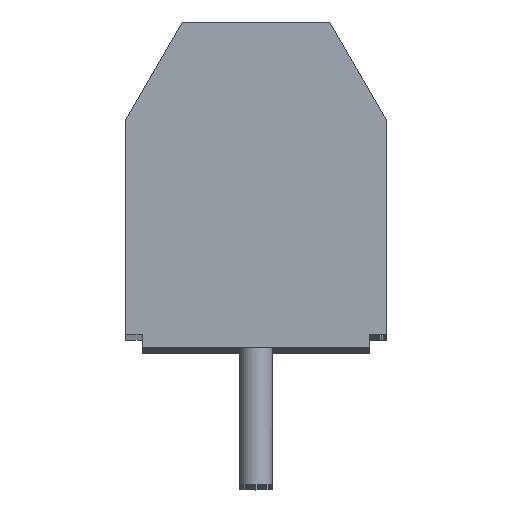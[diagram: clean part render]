
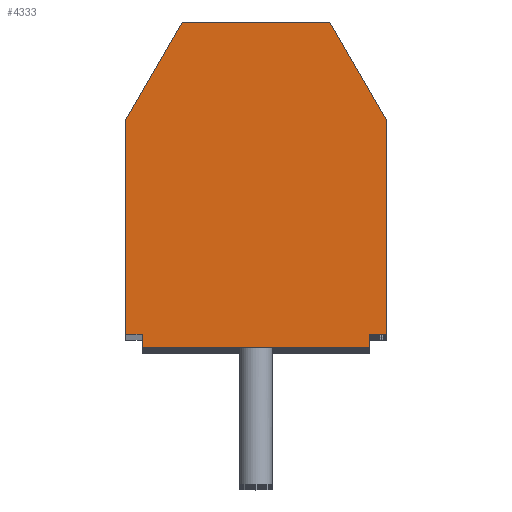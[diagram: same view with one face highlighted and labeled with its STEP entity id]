
A CAD part, top view. The second image highlights one B-rep face of the part: STEP entity #4333.
In plain terms, the highlighted planar face has unit normal (0, 0, 1).
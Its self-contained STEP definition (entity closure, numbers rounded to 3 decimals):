
#4295 = VERTEX_POINT ( 'NONE', #17574 ) ;
#4296 = ORIENTED_EDGE ( 'NONE', *, *, #4297, .F. ) ;
#4297 = EDGE_CURVE ( 'NONE', #4327, #4295, #17573, .T. ) ;
#4309 = EDGE_LOOP ( 'NONE', ( #4310, #4311, #4312, #4313, #4314, #4315, #4316, #4317, #4318, #4296 ) ) ;
#4310 = ORIENTED_EDGE ( 'NONE', *, *, #4332, .T. ) ;
#4311 = ORIENTED_EDGE ( 'NONE', *, *, #41797, .T. ) ;
#4312 = ORIENTED_EDGE ( 'NONE', *, *, #8795, .F. ) ;
#4313 = ORIENTED_EDGE ( 'NONE', *, *, #7131, .T. ) ;
#4314 = ORIENTED_EDGE ( 'NONE', *, *, #40948, .T. ) ;
#4315 = ORIENTED_EDGE ( 'NONE', *, *, #40971, .T. ) ;
#4316 = ORIENTED_EDGE ( 'NONE', *, *, #41071, .T. ) ;
#4317 = ORIENTED_EDGE ( 'NONE', *, *, #41133, .T. ) ;
#4318 = ORIENTED_EDGE ( 'NONE', *, *, #4375, .F. ) ;
#4327 = VERTEX_POINT ( 'NONE', #17601 ) ;
#4332 = EDGE_CURVE ( 'NONE', #4327, #41727, #17596, .T. ) ;
#4333 = ADVANCED_FACE ( 'NONE', ( #17592 ), #17591, .T. ) ;
#4375 = EDGE_CURVE ( 'NONE', #4295, #41126, #17668, .T. ) ;
#7129 = VERTEX_POINT ( 'NONE', #21931 ) ;
#7131 = EDGE_CURVE ( 'NONE', #7153, #7129, #21930, .T. ) ;
#7153 = VERTEX_POINT ( 'NONE', #21954 ) ;
#8795 = EDGE_CURVE ( 'NONE', #7153, #8796, #24060, .T. ) ;
#8796 = VERTEX_POINT ( 'NONE', #24056 ) ;
#17570 = DIRECTION ( 'NONE',  ( 1., 0., 0. ) ) ;
#17571 = VECTOR ( 'NONE', #17570, 1000. ) ;
#17572 = CARTESIAN_POINT ( 'NONE',  ( 2.706, 6.755, 0. ) ) ;
#17573 = LINE ( 'NONE', #17572, #17571 ) ;
#17574 = CARTESIAN_POINT ( 'NONE',  ( 2.706, 6.755, 0. ) ) ;
#17587 = DIRECTION ( 'NONE',  ( 1., 0., 0. ) ) ;
#17588 = DIRECTION ( 'NONE',  ( 0., 0., 1. ) ) ;
#17589 = CARTESIAN_POINT ( 'NONE',  ( -3.562, -3.245, 0. ) ) ;
#17590 = AXIS2_PLACEMENT_3D ( 'NONE', #17589, #17588, #17587 ) ;
#17591 = PLANE ( 'NONE',  #17590 ) ;
#17592 = FACE_OUTER_BOUND ( 'NONE', #4309, .T. ) ;
#17593 = DIRECTION ( 'NONE',  ( -0.5, -0.866, 0. ) ) ;
#17594 = VECTOR ( 'NONE', #17593, 1000. ) ;
#17595 = CARTESIAN_POINT ( 'NONE',  ( -1.83, 6.755, 0. ) ) ;
#17596 = LINE ( 'NONE', #17595, #17594 ) ;
#17601 = CARTESIAN_POINT ( 'NONE',  ( -1.83, 6.755, 0. ) ) ;
#17665 = DIRECTION ( 'NONE',  ( 0.5, -0.866, 0. ) ) ;
#17666 = VECTOR ( 'NONE', #17665, 1000. ) ;
#17667 = CARTESIAN_POINT ( 'NONE',  ( 3.572, 5.255, 0. ) ) ;
#17668 = LINE ( 'NONE', #17667, #17666 ) ;
#21927 = DIRECTION ( 'NONE',  ( 0., -1., 0. ) ) ;
#21928 = VECTOR ( 'NONE', #21927, 1000. ) ;
#21929 = CARTESIAN_POINT ( 'NONE',  ( -3.062, -3.045, 0. ) ) ;
#21930 = LINE ( 'NONE', #21929, #21928 ) ;
#21931 = CARTESIAN_POINT ( 'NONE',  ( -3.062, -3.245, 0. ) ) ;
#21954 = CARTESIAN_POINT ( 'NONE',  ( -3.062, -2.845, 0. ) ) ;
#24056 = CARTESIAN_POINT ( 'NONE',  ( -3.562, -2.845, 0. ) ) ;
#24057 = DIRECTION ( 'NONE',  ( -1., 0., 0. ) ) ;
#24058 = VECTOR ( 'NONE', #24057, 1000. ) ;
#24059 = CARTESIAN_POINT ( 'NONE',  ( -3.562, -2.845, 0. ) ) ;
#24060 = LINE ( 'NONE', #24059, #24058 ) ;
#40943 = VERTEX_POINT ( 'NONE', #48590 ) ;
#40948 = EDGE_CURVE ( 'NONE', #7129, #40943, #48587, .T. ) ;
#40964 = VERTEX_POINT ( 'NONE', #48664 ) ;
#40971 = EDGE_CURVE ( 'NONE', #40943, #40964, #48655, .T. ) ;
#41065 = VERTEX_POINT ( 'NONE', #48740 ) ;
#41071 = EDGE_CURVE ( 'NONE', #40964, #41065, #48737, .T. ) ;
#41126 = VERTEX_POINT ( 'NONE', #48894 ) ;
#41133 = EDGE_CURVE ( 'NONE', #41065, #41126, #48974, .T. ) ;
#41727 = VERTEX_POINT ( 'NONE', #49544 ) ;
#41797 = EDGE_CURVE ( 'NONE', #41727, #8796, #49773, .T. ) ;
#48582 = DIRECTION ( 'NONE',  ( 1., 0., 0. ) ) ;
#48583 = VECTOR ( 'NONE', #48582, 1000. ) ;
#48585 = CARTESIAN_POINT ( 'NONE',  ( 0.438, -3.245, 0. ) ) ;
#48587 = LINE ( 'NONE', #48585, #48583 ) ;
#48590 = CARTESIAN_POINT ( 'NONE',  ( 3.938, -3.245, 0. ) ) ;
#48652 = DIRECTION ( 'NONE',  ( 0., 1., 0. ) ) ;
#48653 = VECTOR ( 'NONE', #48652, 1000. ) ;
#48654 = CARTESIAN_POINT ( 'NONE',  ( 3.938, 1.755, 0. ) ) ;
#48655 = LINE ( 'NONE', #48654, #48653 ) ;
#48664 = CARTESIAN_POINT ( 'NONE',  ( 3.938, -2.845, 0. ) ) ;
#48737 = LINE ( 'NONE', #48854, #48853 ) ;
#48740 = CARTESIAN_POINT ( 'NONE',  ( 4.438, -2.845, 0. ) ) ;
#48852 = DIRECTION ( 'NONE',  ( 1., 0., 0. ) ) ;
#48853 = VECTOR ( 'NONE', #48852, 1000. ) ;
#48854 = CARTESIAN_POINT ( 'NONE',  ( 0.438, -2.845, 0. ) ) ;
#48894 = CARTESIAN_POINT ( 'NONE',  ( 4.438, 3.755, 0. ) ) ;
#48970 = DIRECTION ( 'NONE',  ( 0., 1., 0. ) ) ;
#48971 = VECTOR ( 'NONE', #48970, 1000. ) ;
#48972 = CARTESIAN_POINT ( 'NONE',  ( 4.438, -3.245, 0. ) ) ;
#48974 = LINE ( 'NONE', #48972, #48971 ) ;
#49544 = CARTESIAN_POINT ( 'NONE',  ( -3.562, 3.755, 0. ) ) ;
#49731 = DIRECTION ( 'NONE',  ( 0., -1., 0. ) ) ;
#49733 = VECTOR ( 'NONE', #49731, 1000. ) ;
#49735 = CARTESIAN_POINT ( 'NONE',  ( -3.562, 1.755, 0. ) ) ;
#49773 = LINE ( 'NONE', #49735, #49733 ) ;
